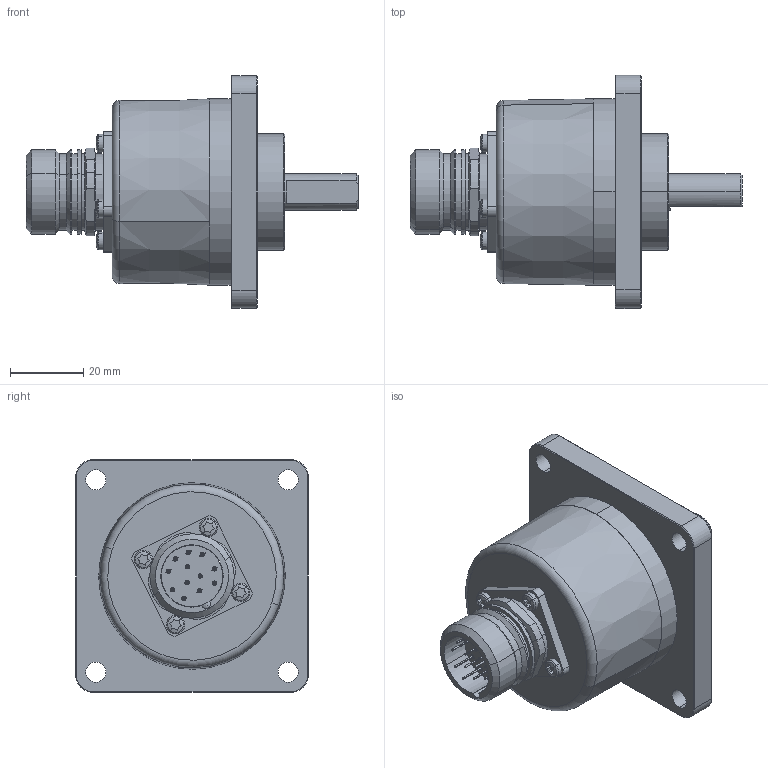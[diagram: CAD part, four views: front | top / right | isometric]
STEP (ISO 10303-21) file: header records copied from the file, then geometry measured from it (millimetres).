
FILE_DESCRIPTION (( 'STEP AP214' ), '1' );
FILE_NAME ('5000.3DX7.XXXX.STEP', '2011-01-04T09:44:29', ( 'admin' ), ( 'Fritz Kübler GmbH' ), 'SwSTEP 2.0', 'SolidWorks 2009', '' );
FILE_SCHEMA (( 'AUTOMOTIVE_DESIGN' ));
Length unit declared in the file: millimetre
Products named in the file (1): 5000.3DX7.XXXX
Bounding box: 90.5 x 63.5 x 63.5 mm (x, y, z)
Surface area: 22600.3 mm2 (no closed solid volume)
Topology: 0 solids, 34 shells, 323 faces, 924 edges, 594 vertices
Faces by surface type: cylinder 117, plane 95, sphere 52, torus 30, cone 29
Entity records: 14340 total; most frequent: CARTESIAN_POINT 2434, DIRECTION 1956, ORIENTED_EDGE 1517, EDGE_CURVE 848, AXIS2_PLACEMENT_3D 834, VERTEX_POINT 564, CIRCLE 510, EDGE_LOOP 396
